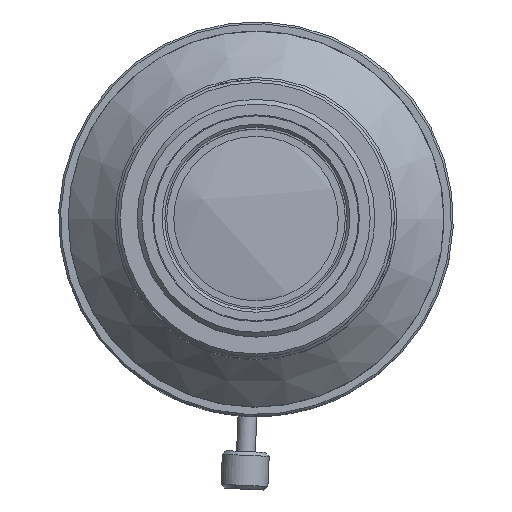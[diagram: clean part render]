
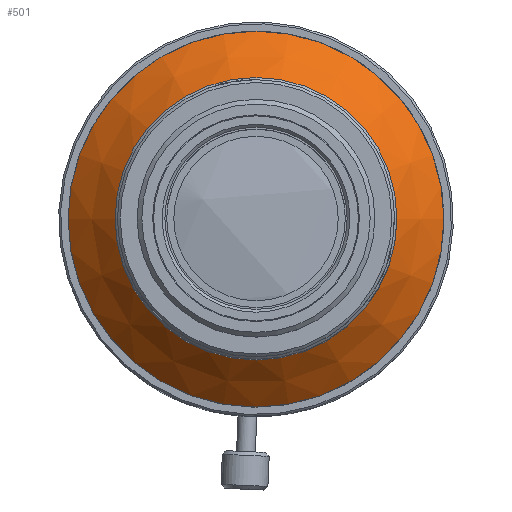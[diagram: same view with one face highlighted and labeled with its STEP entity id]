
A CAD part, top view. The second image highlights one B-rep face of the part: STEP entity #501.
In plain terms, the highlighted conical face has half-angle 45 degrees and reference radius 20 mm.
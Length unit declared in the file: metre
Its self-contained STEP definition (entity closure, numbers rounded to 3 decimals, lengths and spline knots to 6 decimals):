
#501=ADVANCED_FACE('NONE',(#1301,#1302),#1303,.T.);
#1301=FACE_OUTER_BOUND('',#2535,.T.);
#1302=FACE_BOUND('',#2536,.T.);
#1303=CONICAL_SURFACE('',#2537,0.02,0.785);
#2535=EDGE_LOOP('',(#6407));
#2536=EDGE_LOOP('',(#6408));
#2537=AXIS2_PLACEMENT_3D('',#6409,#6410,#6411);
#6407=ORIENTED_EDGE('',*,*,#8602,.F.);
#6408=ORIENTED_EDGE('',*,*,#8603,.T.);
#6409=CARTESIAN_POINT('',(0.002888,0.006721,0.050122));
#6410=DIRECTION('',(0.,-0.0,-1.0));
#6411=DIRECTION('',(-1.0,0.0,0.));
#8602=EDGE_CURVE('NONE',#9672,#9672,#9673,.T.);
#8603=EDGE_CURVE('NONE',#9674,#9674,#9675,.T.);
#9672=VERTEX_POINT('',#11366);
#9673=CIRCLE('',#11367,0.02);
#9674=VERTEX_POINT('',#11368);
#9675=CIRCLE('',#11369,0.015);
#11366=CARTESIAN_POINT('',(-0.017112,0.006721,0.050122));
#11367=AXIS2_PLACEMENT_3D('',#14889,#14890,#14891);
#11368=CARTESIAN_POINT('',(-0.012112,0.006721,0.055122));
#11369=AXIS2_PLACEMENT_3D('',#14892,#14893,#14894);
#14889=CARTESIAN_POINT('',(0.002888,0.006721,0.050122));
#14890=DIRECTION('',(0.,0.0,-1.0));
#14891=DIRECTION('',(-1.0,0.0,0.));
#14892=CARTESIAN_POINT('',(0.002888,0.006721,0.055122));
#14893=DIRECTION('',(0.,0.0,-1.0));
#14894=DIRECTION('',(-1.0,0.0,0.));
